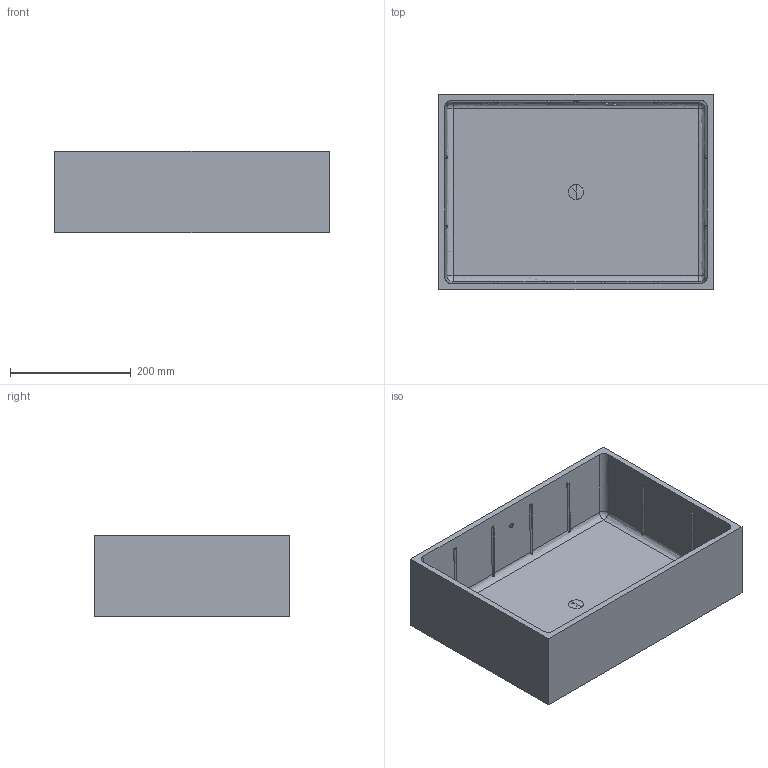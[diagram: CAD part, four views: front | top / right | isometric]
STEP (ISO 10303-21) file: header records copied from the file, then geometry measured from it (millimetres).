
FILE_DESCRIPTION (( 'STEP AP203' ), '1' );
FILE_NAME ('bottom inside type 5000.STEP', '2013-06-26T08:18:43', ( 'Master' ), ( '' ), 'SwSTEP 2.0', 'SolidWorks 2013', '' );
FILE_SCHEMA (( 'CONFIG_CONTROL_DESIGN' ));
Length unit declared in the file: millimetre
Products named in the file (1): bottom inside type 5000
Bounding box: 454.95 x 323.86 x 134.41 mm (x, y, z)
Volume: 3693730.3 mm3; surface area: 676365.4 mm2
Topology: 1 solids, 1 shells, 143 faces, 384 edges, 251 vertices
Faces by surface type: plane 94, bspline 49
Entity records: 6123 total; most frequent: CARTESIAN_POINT 2970, ORIENTED_EDGE 764, DIRECTION 450, EDGE_CURVE 382, LINE 260, VECTOR 260, VERTEX_POINT 251, EDGE_LOOP 153
